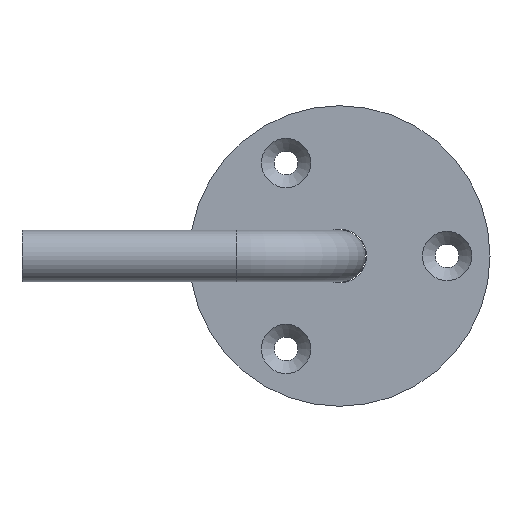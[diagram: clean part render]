
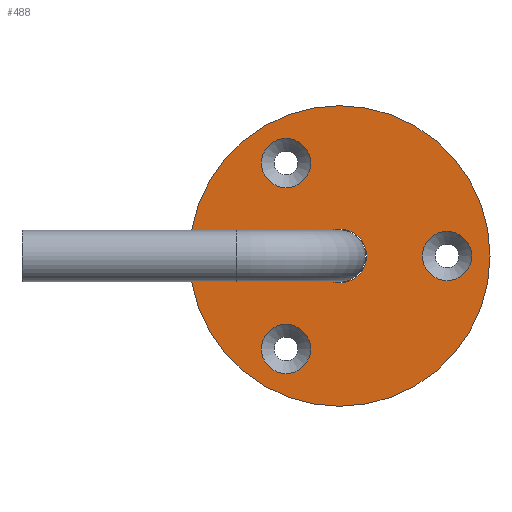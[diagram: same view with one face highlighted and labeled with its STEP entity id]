
A CAD part, left-side view. The second image highlights one B-rep face of the part: STEP entity #488.
In plain terms, the highlighted planar face has unit normal (-1, 0, 0).
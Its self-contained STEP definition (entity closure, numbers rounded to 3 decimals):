
#238=ORIENTED_EDGE('',*,*,#294,.T.);
#239=ORIENTED_EDGE('',*,*,#299,.F.);
#240=ORIENTED_EDGE('',*,*,#300,.F.);
#241=ORIENTED_EDGE('',*,*,#301,.F.);
#242=ORIENTED_EDGE('',*,*,#302,.F.);
#260=CIRCLE('',#453,35.);
#265=CIRCLE('',#460,6.25);
#266=CIRCLE('',#462,5.735);
#267=CIRCLE('',#463,5.735);
#268=CIRCLE('',#464,5.735);
#277=VERTEX_POINT('',#517);
#282=VERTEX_POINT('',#529);
#283=VERTEX_POINT('',#532);
#284=VERTEX_POINT('',#534);
#285=VERTEX_POINT('',#536);
#294=EDGE_CURVE('',#277,#277,#260,.T.);
#299=EDGE_CURVE('',#282,#282,#265,.T.);
#300=EDGE_CURVE('',#283,#283,#266,.T.);
#301=EDGE_CURVE('',#284,#284,#267,.T.);
#302=EDGE_CURVE('',#285,#285,#268,.T.);
#323=EDGE_LOOP('',(#238));
#324=EDGE_LOOP('',(#239));
#325=EDGE_LOOP('',(#240));
#326=EDGE_LOOP('',(#241));
#327=EDGE_LOOP('',(#242));
#357=FACE_BOUND('',#323,.T.);
#358=FACE_BOUND('',#324,.T.);
#359=FACE_BOUND('',#325,.T.);
#360=FACE_BOUND('',#326,.T.);
#361=FACE_BOUND('',#327,.T.);
#396=DIRECTION('',(-1.,0.,0.));
#397=DIRECTION('',(0.,-35.,0.));
#410=DIRECTION('',(-1.,0.,0.));
#411=DIRECTION('',(0.,0.,-6.25));
#412=DIRECTION('',(-1.,0.,0.));
#413=DIRECTION('',(0.,1.,0.));
#414=DIRECTION('',(-1.,0.,0.));
#415=DIRECTION('',(0.,-5.735,0.));
#416=DIRECTION('',(-1.,0.,0.));
#417=DIRECTION('',(0.,2.867,4.967));
#418=DIRECTION('',(-1.,0.,0.));
#419=DIRECTION('',(0.,2.868,-4.967));
#453=AXIS2_PLACEMENT_3D('',#518,#396,#397);
#460=AXIS2_PLACEMENT_3D('',#530,#410,#411);
#461=AXIS2_PLACEMENT_3D('',#531,#412,#413);
#462=AXIS2_PLACEMENT_3D('',#533,#414,#415);
#463=AXIS2_PLACEMENT_3D('',#535,#416,#417);
#464=AXIS2_PLACEMENT_3D('',#537,#418,#419);
#479=PLANE('',#461);
#488=ADVANCED_FACE('',(#357,#358,#359,#360,#361),#479,.T.);
#517=CARTESIAN_POINT('',(3.,-35.,0.));
#518=CARTESIAN_POINT('',(3.,0.,0.));
#529=CARTESIAN_POINT('',(3.,0.,-6.25));
#530=CARTESIAN_POINT('',(3.,0.,0.));
#531=CARTESIAN_POINT('',(3.,-35.,0.));
#532=CARTESIAN_POINT('',(3.,6.765,21.651));
#533=CARTESIAN_POINT('',(3.,12.5,21.651));
#534=CARTESIAN_POINT('',(3.,15.368,-16.684));
#535=CARTESIAN_POINT('',(3.,12.5,-21.651));
#536=CARTESIAN_POINT('',(3.,-22.132,-4.967));
#537=CARTESIAN_POINT('',(3.,-25.,0.));
